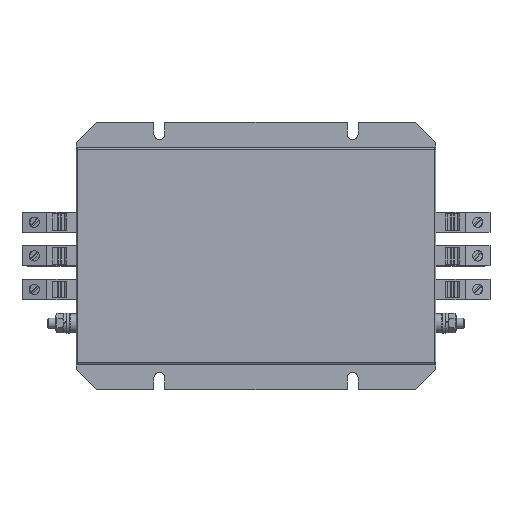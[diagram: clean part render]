
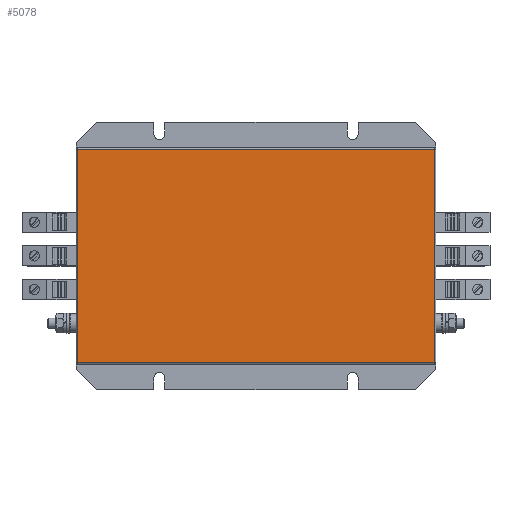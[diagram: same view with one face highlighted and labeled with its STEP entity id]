
A CAD part, top view. The second image highlights one B-rep face of the part: STEP entity #5078.
In plain terms, the highlighted planar face has unit normal (0, 0, 1).
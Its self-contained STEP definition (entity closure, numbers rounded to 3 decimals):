
#5039=CARTESIAN_POINT('',(0.0,0.0,64.0));
#5040=DIRECTION('',(0.0,0.0,1.0));
#5041=DIRECTION('',(1.0,0.0,0.0));
#5042=AXIS2_PLACEMENT_3D('',#5039,#5040,#5041);
#5043=PLANE('',#5042);
#5044=CARTESIAN_POINT('',(-106.,-63.5,64.0));
#5045=VERTEX_POINT('',#5044);
#5046=CARTESIAN_POINT('',(-106.,63.5,64.0));
#5047=VERTEX_POINT('',#5046);
#5048=CARTESIAN_POINT('',(-106.,-63.5,64.0));
#5049=DIRECTION('',(0.0,1.0,0.0));
#5050=VECTOR('',#5049,127.);
#5051=LINE('',#5048,#5050);
#5052=EDGE_CURVE('',#5045,#5047,#5051,.T.);
#5053=ORIENTED_EDGE('',*,*,#5052,.F.);
#5054=CARTESIAN_POINT('',(106.,-63.5,64.0));
#5055=VERTEX_POINT('',#5054);
#5056=CARTESIAN_POINT('',(106.,-63.5,64.0));
#5057=DIRECTION('',(-1.0,0.0,0.0));
#5058=VECTOR('',#5057,212.);
#5059=LINE('',#5056,#5058);
#5060=EDGE_CURVE('',#5055,#5045,#5059,.T.);
#5061=ORIENTED_EDGE('',*,*,#5060,.F.);
#5062=CARTESIAN_POINT('',(106.,63.5,64.0));
#5063=VERTEX_POINT('',#5062);
#5064=CARTESIAN_POINT('',(106.,63.5,64.0));
#5065=DIRECTION('',(0.0,-1.0,0.0));
#5066=VECTOR('',#5065,127.);
#5067=LINE('',#5064,#5066);
#5068=EDGE_CURVE('',#5063,#5055,#5067,.T.);
#5069=ORIENTED_EDGE('',*,*,#5068,.F.);
#5070=CARTESIAN_POINT('',(-106.,63.5,64.0));
#5071=DIRECTION('',(1.0,0.0,0.0));
#5072=VECTOR('',#5071,212.);
#5073=LINE('',#5070,#5072);
#5074=EDGE_CURVE('',#5047,#5063,#5073,.T.);
#5075=ORIENTED_EDGE('',*,*,#5074,.F.);
#5076=EDGE_LOOP('',(#5053,#5061,#5069,#5075));
#5077=FACE_OUTER_BOUND('',#5076,.T.);
#5078=ADVANCED_FACE('',(#5077),#5043,.T.);
